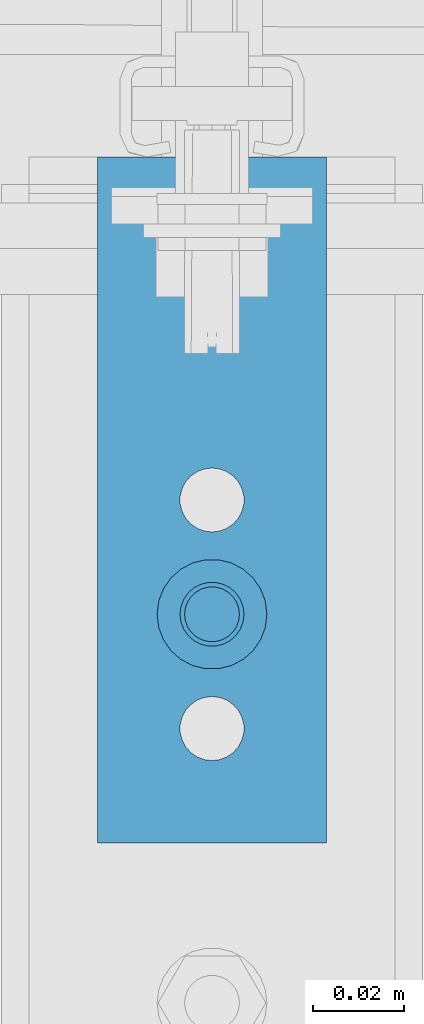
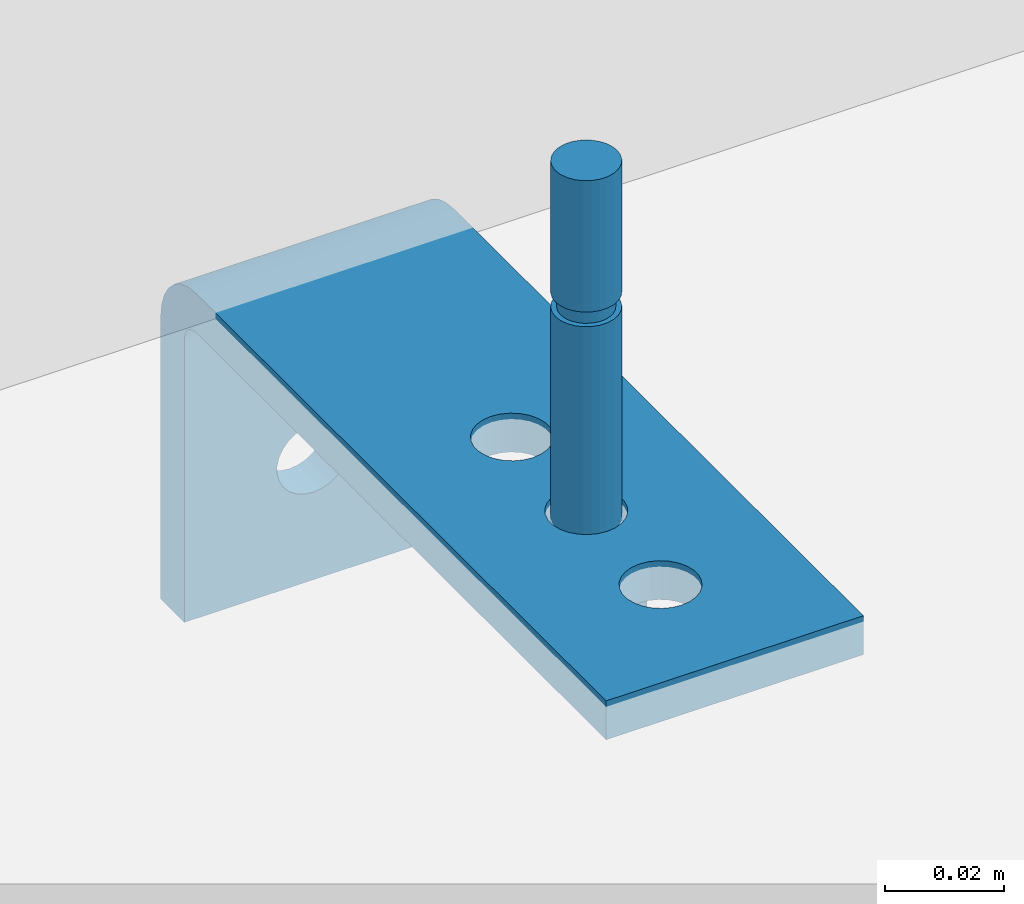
# One storey, part 5 of 17: 2 assemblies, 4 openings.
"""IFC2X3 building model written with IfcOpenShell, lengths in metres."""

import ifcopenshell
import ifcopenshell.guid

model = None  # the IFC model being written
_history = None  # IfcOwnerHistory: only IFC2X3 demands one
_inside = {}  # id of a spatial element -> (the spatial element, [elements in it])
_under = {}  # id of a project, library or spatial element -> (it, [spatial elements below it])
_declared = {}  # id of a project -> (the project, [libraries it declares])
_typed = {}  # id of a type object -> (the type object, [elements of that type])
_made_of = {}  # id of a material, layer set ... -> (it, [elements and type objects made of it])


def new_model(schema):
    """Start an empty IFC model of exactly this schema.

    Asked for "IFC4X3", IfcOpenShell would pick the latest addendum, in which some entities
    have other attributes; the version numbers below select the first issue.
    IFC2X3 requires an IfcOwnerHistory on every rooted entity: one is made here for all.
    """
    global model, _history
    if schema == "IFC4X3":
        model = ifcopenshell.file(schema_version=(4, 3, 0, 0))
    else:
        model = ifcopenshell.file(schema=schema)
    _inside.clear()
    _under.clear()
    _declared.clear()
    _typed.clear()
    _made_of.clear()
    _history = None
    if model.schema == "IFC2X3":
        org = make("IfcOrganization", Name="unknown")
        user = make(
            "IfcPersonAndOrganization",
            ThePerson=make("IfcPerson", FamilyName="unknown"),
            TheOrganization=org,
        )
        app = make(
            "IfcApplication",
            ApplicationDeveloper=org,
            Version="unknown",
            ApplicationFullName="unknown",
            ApplicationIdentifier="unknown",
        )
        _history = make(
            "IfcOwnerHistory",
            OwningUser=user,
            OwningApplication=app,
            ChangeAction="ADDED",
            CreationDate=0,
        )
    return model


def make(cls, **values):
    """One entity of the class cls with the attributes given. An attribute that is None is left unset."""
    return model.create_entity(
        cls, **{name: value for name, value in values.items() if value is not None}
    )


def entity(cls, *values):
    """Any entity or typed value of the class cls, its attributes in the order of the schema. None: left unset."""
    e = model.create_entity(cls)
    for i, value in enumerate(values):
        if value is not None:
            e[i] = value
    return e


def rooted(cls, **values):
    """An entity with a GlobalId (a new one), such as an element, a storey or a relation."""
    return make(cls, GlobalId=ifcopenshell.guid.new(), OwnerHistory=_history, **values)


def si_unit(unit_type, name, prefix=None):
    """IfcSIUnit, for example si_unit("LENGTHUNIT", "METRE", prefix="MILLI")."""
    return make("IfcSIUnit", UnitType=unit_type, Prefix=prefix, Name=name)


def converted_unit(unit_type, name, factor, base, dimensions=None, offset=None):
    """IfcConversionBasedUnit, such as the inch: factor (a typed value) times the base unit."""
    return make(
        "IfcConversionBasedUnit"
        if offset is None
        else "IfcConversionBasedUnitWithOffset",
        ConversionOffset=offset,
        Dimensions=None
        if dimensions is None
        else entity("IfcDimensionalExponents", *dimensions),
        UnitType=unit_type,
        Name=name,
        ConversionFactor=make(
            "IfcMeasureWithUnit", ValueComponent=factor, UnitComponent=base
        ),
    )


def derived_unit(unit_type, elements):
    """IfcDerivedUnit: a product of units, each with its exponent."""
    return make(
        "IfcDerivedUnit",
        Elements=[
            make("IfcDerivedUnitElement", Unit=unit, Exponent=power)
            for unit, power in elements
        ],
        UnitType=unit_type,
    )


def assignment(units):
    """IfcUnitAssignment: the units of a project."""
    return None if units is None else make("IfcUnitAssignment", Units=units)


def point(xyz):
    """IfcCartesianPoint."""
    return None if xyz is None else make("IfcCartesianPoint", Coordinates=xyz)


def direction(xyz):
    """IfcDirection."""
    return None if xyz is None else make("IfcDirection", DirectionRatios=xyz)


def frame(location, z_axis=None, x_axis=None):
    """IfcAxis2Placement3D, a coordinate frame: its origin and axes. An axis left out is left unset."""
    return make(
        "IfcAxis2Placement3D",
        Location=point(location),
        Axis=direction(z_axis),
        RefDirection=direction(x_axis),
    )


def frame_2d(location, x_axis=None):
    """IfcAxis2Placement2D, a coordinate frame in the plane: its origin and x axis."""
    return make(
        "IfcAxis2Placement2D", Location=point(location), RefDirection=direction(x_axis)
    )


def origin():
    """The frame at (0, 0, 0) with its axes left unset."""
    return frame((0.0, 0.0, 0.0))


def place(relative_to, where):
    """IfcLocalPlacement: puts the frame where relative to a parent placement (None: the world)."""
    return make(
        "IfcLocalPlacement", PlacementRelTo=relative_to, RelativePlacement=where
    )


def context(
    kind, dimensions, precision=None, world=None, true_north=None, identifier=None
):
    """IfcGeometricRepresentationContext, for example the 3D "Model" context."""
    return make(
        "IfcGeometricRepresentationContext",
        ContextIdentifier=identifier,
        ContextType=kind,
        CoordinateSpaceDimension=dimensions,
        Precision=precision,
        WorldCoordinateSystem=world,
        TrueNorth=true_north,
    )


def subcontext(parent, identifier, kind, view, scale=None):
    """IfcGeometricRepresentationSubContext, for example "Body" below "Model"."""
    return make(
        "IfcGeometricRepresentationSubContext",
        ContextIdentifier=identifier,
        ContextType=kind,
        ParentContext=parent,
        TargetScale=scale,
        TargetView=view,
    )


def project(units=None, contexts=None):
    """IfcProject with its units and contexts."""
    return rooted(
        "IfcProject",
        Name="project",
        RepresentationContexts=contexts,
        UnitsInContext=assignment(units),
    )


def spatial(cls, under=None, at=None, **own):
    """A site, building, storey or space (cls), placed at a placement, below another one or the project."""
    s = rooted(cls, ObjectPlacement=at, **own)
    if under is not None:
        _under.setdefault(under.id(), (under, []))[1].append(s)
    return s


def polyline(points):
    """IfcPolyline through the points."""
    return make("IfcPolyline", Points=[point(p) for p in points])


def circle_curve(where, radius):
    """IfcCircle in the frame where."""
    return make("IfcCircle", Position=where, Radius=radius)


def parameter(value):
    """IfcParameterValue: where a trimmed curve begins or ends, as a parameter of its basis curve."""
    return model.create_entity("IfcParameterValue", value)


def trimmed(basis, trim1, trim2, sense, master):
    """IfcTrimmedCurve: the piece of a basis curve between two trims."""
    return make(
        "IfcTrimmedCurve",
        BasisCurve=basis,
        Trim1=trim1,
        Trim2=trim2,
        SenseAgreement=sense,
        MasterRepresentation=master,
    )


def segment(curve, same_sense, transition):
    """IfcCompositeCurveSegment."""
    return make(
        "IfcCompositeCurveSegment",
        Transition=transition,
        SameSense=same_sense,
        ParentCurve=curve,
    )


def composite_curve(segments, self_intersect=None):
    """IfcCompositeCurve: segments joined end to end."""
    return make("IfcCompositeCurve", Segments=segments, SelfIntersect=self_intersect)


def profile(cls, at=None, kind="AREA", **sizes):
    """A parametric profile (cls). Its sizes go by their IFC names, for example OverallWidth=200.0."""
    return make(cls, ProfileType=kind, Position=at, **sizes)


def circle(**sizes):
    """IfcCircleProfileDef."""
    return profile("IfcCircleProfileDef", **sizes)


def hollow_circle(**sizes):
    """IfcCircleHollowProfileDef."""
    return profile("IfcCircleHollowProfileDef", **sizes)


def outline(outer, holes=None, kind="AREA"):
    """IfcArbitraryClosedProfileDef: a profile drawn as a closed curve; with holes, ...WithVoids."""
    if holes is None:
        return make("IfcArbitraryClosedProfileDef", ProfileType=kind, OuterCurve=outer)
    return make(
        "IfcArbitraryProfileDefWithVoids",
        ProfileType=kind,
        OuterCurve=outer,
        InnerCurves=holes,
    )


def extrude(swept, where, along, depth):
    """IfcExtrudedAreaSolid: the profile swept, set in the frame where, extruded along a direction by depth."""
    return make(
        "IfcExtrudedAreaSolid",
        SweptArea=swept,
        Position=where,
        ExtrudedDirection=direction(along),
        Depth=depth,
    )


def shape(context_of_items, identifier, shape_type, items):
    """IfcShapeRepresentation: the items that make up one representation, for example the "Body"."""
    return make(
        "IfcShapeRepresentation",
        ContextOfItems=context_of_items,
        RepresentationIdentifier=identifier,
        RepresentationType=shape_type,
        Items=items,
    )


def source(mapping_origin, context_of_items, identifier, shape_type, items):
    """IfcRepresentationMap: a shape defined once, which mapped items show again and again."""
    return make(
        "IfcRepresentationMap",
        MappingOrigin=mapping_origin,
        MappedRepresentation=shape(context_of_items, identifier, shape_type, items),
    )


def transform(
    local_origin,
    x_axis=None,
    y_axis=None,
    z_axis=None,
    scale=None,
    scale2=None,
    scale3=None,
    uniform=True,
):
    """IfcCartesianTransformationOperator3D, or its non-uniform kind. x_axis, y_axis, z_axis: its Axis1, 2, 3."""
    if uniform:
        return make(
            "IfcCartesianTransformationOperator3D",
            Axis1=direction(x_axis),
            Axis2=direction(y_axis),
            LocalOrigin=point(local_origin),
            Scale=scale,
            Axis3=direction(z_axis),
        )
    return make(
        "IfcCartesianTransformationOperator3DnonUniform",
        Axis1=direction(x_axis),
        Axis2=direction(y_axis),
        LocalOrigin=point(local_origin),
        Scale=scale,
        Axis3=direction(z_axis),
        Scale2=scale2,
        Scale3=scale3,
    )


def mapped(mapping_source, mapping_target):
    """IfcMappedItem: shows the shape of a source again, moved by a transform."""
    return make(
        "IfcMappedItem", MappingSource=mapping_source, MappingTarget=mapping_target
    )


def material(Name=None, Category=None):
    """IfcMaterial."""
    return make("IfcMaterial", Name=Name, Category=Category)


def made_of(thing, what):
    """Note that an element or type object is made of a material, layer set ...; save() writes the relation."""
    if what is not None:
        _made_of.setdefault(what.id(), (what, []))[1].append(thing)
    return thing


def type_object(cls, material=None, **own):
    """A type object (cls), such as IfcWallType, which elements share."""
    return made_of(rooted(cls, **own), material)


def type_shapes(of_type, sources):
    """Give a type object the sources (RepresentationMaps) that its elements show as mapped items."""
    of_type.RepresentationMaps = sources


def element(
    cls,
    number,
    at=None,
    inside=None,
    cuts=None,
    type_object=None,
    material=None,
    context=None,
    identifier="Body",
    shape_type=None,
    held_by="IfcProductDefinitionShape",
    body=None,
    shapes=None,
    **own,
):
    """One element of the class cls, such as IfcWall. Its Tag is "e" and its number.

    at: its placement. inside: the storey or other place that contains it. cuts: it is an
    opening in that element (IfcRelVoidsElement). A single representation is given by context,
    identifier, shape_type and body (its items); several are given by shapes. held_by: the class
    of the entity that holds the representations. save() writes the other relations.
    """
    e = rooted(cls, Tag="e%d" % number, ObjectPlacement=at, **own)
    if body is not None:
        shapes = [shape(context, identifier, shape_type, body)]
    if shapes is not None:
        e.Representation = make(held_by, Representations=shapes)
    if inside is not None:
        _inside.setdefault(inside.id(), (inside, []))[1].append(e)
    if cuts is not None:
        rooted(
            "IfcRelVoidsElement", RelatingBuildingElement=cuts, RelatedOpeningElement=e
        )
    if type_object is not None:
        _typed.setdefault(type_object.id(), (type_object, []))[1].append(e)
    return made_of(e, material)


def aggregate(whole, parts):
    """IfcRelAggregates: a whole, such as a stair, and the parts it consists of."""
    return rooted("IfcRelAggregates", RelatingObject=whole, RelatedObjects=parts)


def save(model, path):
    """Write the relations noted so far, then the file.

    IfcRelAggregates (storeys below a building ...), IfcRelContainedInSpatialStructure (elements
    in a storey), IfcRelDefinesByType, IfcRelAssociatesMaterial and IfcRelDeclares: one each for
    every whole, place, type object, material and project.
    """
    for whole, parts in _under.values():
        aggregate(whole, parts)
    for where, things in _inside.values():
        rooted(
            "IfcRelContainedInSpatialStructure",
            RelatedElements=things,
            RelatingStructure=where,
        )
    for kind, things in _typed.values():
        rooted("IfcRelDefinesByType", RelatedObjects=things, RelatingType=kind)
    for what, things in _made_of.values():
        rooted("IfcRelAssociatesMaterial", RelatedObjects=things, RelatingMaterial=what)
    for by, libraries in _declared.values():
        rooted("IfcRelDeclares", RelatingContext=by, RelatedDefinitions=libraries)
    model.write(path)


model = new_model("IFC2X3")

# Units and contexts
model_context = context("Model", 3, precision=1e-05, world=origin(), true_north=direction((6.123031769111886e-17, 1.0)))
plan_context = context("Plan", 3, precision=1e-05, world=origin(), true_north=direction((6.123031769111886e-17, 1.0)))
body_context = subcontext(model_context, "Body", "Model", "MODEL_VIEW")
ifc_project = project(units=[si_unit("LENGTHUNIT", "METRE"), si_unit("AREAUNIT", "SQUARE_METRE"), converted_unit("PLANEANGLEUNIT", "DEGREE", entity("IfcPlaneAngleMeasure", 0.017453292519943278), si_unit("PLANEANGLEUNIT", "RADIAN"), dimensions=[0, 0, 0, 0, 0, 0, 0]), si_unit("VOLUMEUNIT", "CUBIC_METRE"), derived_unit("THERMALTRANSMITTANCEUNIT", [(si_unit("MASSUNIT", "GRAM", prefix="KILO"), 1), (si_unit("THERMODYNAMICTEMPERATUREUNIT", "KELVIN"), -1), (si_unit("TIMEUNIT", "SECOND"), -3)]), derived_unit("USERDEFINED", [(si_unit("MASSUNIT", "GRAM", prefix="KILO"), 1), (si_unit("THERMODYNAMICTEMPERATUREUNIT", "KELVIN"), -1), (si_unit("TIMEUNIT", "SECOND"), -2)]), derived_unit("THERMALRESISTANCEUNIT", [(si_unit("MASSUNIT", "GRAM", prefix="KILO"), -1), (si_unit("TIMEUNIT", "SECOND"), 3), (si_unit("THERMODYNAMICTEMPERATUREUNIT", "KELVIN"), 1)]), si_unit("PRESSUREUNIT", "PASCAL"), derived_unit("MASSDENSITYUNIT", [(si_unit("MASSUNIT", "GRAM", prefix="KILO"), 1), (si_unit("LENGTHUNIT", "METRE"), -3)]), derived_unit("VAPORPERMEABILITYUNIT", [(si_unit("LENGTHUNIT", "METRE"), -1), (si_unit("TIMEUNIT", "SECOND"), 1)]), derived_unit("USERDEFINED", [(si_unit("MASSUNIT", "GRAM", prefix="KILO"), 1), (si_unit("TIMEUNIT", "SECOND"), -3), (si_unit("LENGTHUNIT", "METRE"), 3), (si_unit("ELECTRICCURRENTUNIT", "AMPERE"), -2)])], contexts=[model_context, plan_context])

# Site, building, storey
site_placement = place(None, origin())
site = spatial("IfcSite", under=ifc_project, at=site_placement, Name="Default", CompositionType="ELEMENT")
building_placement = place(site_placement, origin())
building = spatial("IfcBuilding", under=site, at=building_placement, CompositionType="ELEMENT")
storey_placement = place(building_placement, origin())
storey = spatial("IfcBuildingStorey", under=building, at=storey_placement, Name="L0", CompositionType="ELEMENT", Elevation=0.0)

# Assembly
ifc_material = material(Name="REC_Acero, S 275JR (Zincado)")
type_product_1 = type_object("IfcTypeProduct", Name="REC-AEM12-100:AEM12-100", material=ifc_material)
shared_shape_1 = source(origin(), body_context, "Body", "SweptSolid", [
    extrude(outline(polyline([(-0.005890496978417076, -0.010202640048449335), (0.005890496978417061, -0.010202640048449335), (0.01178099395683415, 0.0), (0.005890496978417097, 0.010202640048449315), (-0.0058904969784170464, 0.010202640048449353), (-0.011780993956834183, 0.0), (-0.005890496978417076, -0.010202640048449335)]), holes=[composite_curve([segment(trimmed(circle_curve(frame_2d((6.043164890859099e-09, 0.0), x_axis=(1.0, 0.0)), 0.005999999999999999), [parameter(3.053332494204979e-13)], [parameter(180.0)], True, "PARAMETER"), False, "CONTINUOUS"), segment(trimmed(circle_curve(frame_2d((6.043164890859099e-09, 0.0), x_axis=(1.0, 0.0)), 0.005999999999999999), [parameter(179.99999999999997)], [parameter(0.0)], True, "PARAMETER"), False, "CONTINUOUS")], self_intersect=False)]), frame((-6.043164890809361e-09, 0.0, 0.002399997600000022)), (0.0, 0.0, 1.0), 0.009600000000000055),
    extrude(hollow_circle(Radius=0.011999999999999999, WallThickness=0.004999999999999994, at=frame_2d((1.062573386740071e-19, -1.9386534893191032e-17), x_axis=(1.0, 0.0))), origin(), (0.0, 0.0, 1.0), 0.002399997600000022),
    extrude(circle(Radius=0.006, at=frame_2d((1.3218592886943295e-19, -9.69326744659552e-18), x_axis=(1.0, 0.0))), frame((0.0, 0.0, -0.05)), (0.0, 0.0, 1.0), 0.07),
    extrude(circle(Radius=0.006, at=frame_2d((1.3218592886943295e-19, -9.69326744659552e-18), x_axis=(1.0, 0.0))), frame((0.0, 0.0, -0.08)), (0.0, 0.0, 1.0), 0.027000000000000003),
    extrude(circle(Radius=0.005, at=frame_2d((1.3218592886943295e-19, -8.077722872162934e-18), x_axis=(1.0, 0.0))), frame((0.0, 0.0, -0.053)), (0.0, 0.0, 1.0), 0.002999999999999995),
])
type_shapes(type_product_1, [shared_shape_1])
assembly_1_placement = place(storey_placement, frame((7.407720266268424, 16.91453029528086, -0.20800000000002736), z_axis=(0.0, 0.0, -1.0), x_axis=(-1.0, 0.0, 0.0)))
element("IfcElementAssembly", 1, at=assembly_1_placement, inside=storey, type_object=type_product_1, material=ifc_material, Name="REC-AEM12-100:AEM12-100", ObjectType="REC-AEM12-100:AEM12-100", AssemblyPlace="NOTDEFINED", PredefinedType="NOTDEFINED", context=body_context, shape_type="MappedRepresentation", body=[
    mapped(shared_shape_1, transform((0.0, 0.0, 0.0), scale=1.0)),
])

# Assembly, openings
type_product_2 = type_object("IfcTypeProduct", Name="REC-PAA150708T14:PAA150708T14", material=ifc_material)
shared_shape_2 = source(origin(), body_context, "Body", "SweptSolid", [
    extrude(outline(composite_curve([segment(polyline([(-0.03449999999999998, -0.010499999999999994), (-0.03449999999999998, 0.04750000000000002)]), True, "CONTINUOUS"), segment(polyline([(-0.03449999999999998, 0.04750000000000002), (-0.04249999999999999, 0.04750000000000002)]), True, "CONTINUOUS"), segment(polyline([(-0.04249999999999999, 0.04750000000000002), (-0.042499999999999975, -0.01050000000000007)]), True, "CONTINUOUS"), segment(trimmed(circle_curve(frame_2d((-0.03049999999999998, -0.010499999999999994), x_axis=(1.0, 0.0)), 0.012), [parameter(180.00000000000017)], [parameter(269.99999999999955)], True, "PARAMETER"), True, "CONTINUOUS"), segment(polyline([(-0.03049999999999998, -0.022499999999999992), (0.10750000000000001, -0.022499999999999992)]), True, "CONTINUOUS"), segment(polyline([(0.10750000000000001, -0.022499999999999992), (0.10750000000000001, -0.01449999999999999)]), True, "CONTINUOUS"), segment(polyline([(0.10750000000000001, -0.01449999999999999), (-0.030500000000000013, -0.014499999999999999)]), True, "CONTINUOUS"), segment(trimmed(circle_curve(frame_2d((-0.03049999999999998, -0.010499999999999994), x_axis=(1.0, 0.0)), 0.004), [parameter(180.00000000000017)], [parameter(269.9999999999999)], True, "PARAMETER"), False, "CONTINUOUS")], self_intersect=False)), frame((-0.024999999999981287, 0.0225, 0.042499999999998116), z_axis=(-1.0, 0.0, 0.0), x_axis=(0.0, 0.0, 1.0)), (0.0, 0.0, -1.0), 0.04999999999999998),
])
type_shapes(type_product_2, [shared_shape_2])
assembly_2_placement = place(storey_placement, frame((7.407720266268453, 17.014530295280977, -0.20000000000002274), z_axis=(0.0, -1.0, 0.0), x_axis=(-1.0, 0.0, 0.0)))
assembly_2 = element("IfcElementAssembly", 2, at=assembly_2_placement, inside=storey, type_object=type_product_2, material=ifc_material, Name="REC-PAA150708T14:PAA150708T14", ObjectType="REC-PAA150708T14:PAA150708T14", AssemblyPlace="NOTDEFINED", PredefinedType="NOTDEFINED", context=body_context, shape_type="MappedRepresentation", body=[
    mapped(shared_shape_2, transform((0.0, 0.0, 0.0), scale=1.0)),
])
opening_1_placement = place(storey_placement, frame((7.407720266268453, 17.014530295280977, -0.20000000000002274)))
element("IfcOpeningElement", 3, at=opening_1_placement, cuts=assembly_2, Name="REC-PAA150708T14:PAA150708T14:1", ObjectType="Opening", context=body_context, shape_type="SweptSolid", body=[
    extrude(circle(Radius=0.007, at=frame_2d((6.283419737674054e-33, 3.537250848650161e-18), x_axis=(1.0, 0.0))), frame((0.0, -0.12499999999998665, 0.0), z_axis=(0.0, 0.0, -1.0), x_axis=(0.0, 1.0, 0.0)), (0.0, 0.0, 1.0), 0.007999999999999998),
])
opening_2_placement = place(storey_placement, frame((7.407720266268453, 17.014530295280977, -0.20000000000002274)))
element("IfcOpeningElement", 4, at=opening_2_placement, cuts=assembly_2, Name="REC-PAA150708T14:PAA150708T14:2", ObjectType="Opening", context=body_context, shape_type="SweptSolid", body=[
    extrude(circle(Radius=0.007, at=frame_2d((6.283419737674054e-33, 3.537250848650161e-18), x_axis=(1.0, 0.0))), frame((0.0, -0.09999999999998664, 0.0), z_axis=(0.0, 0.0, -1.0), x_axis=(0.0, 1.0, 0.0)), (0.0, 0.0, 1.0), 0.007999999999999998),
])
opening_3_placement = place(storey_placement, frame((7.407720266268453, 17.014530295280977, -0.20000000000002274)))
element("IfcOpeningElement", 5, at=opening_3_placement, cuts=assembly_2, Name="REC-PAA150708T14:PAA150708T14:3", ObjectType="Opening", context=body_context, shape_type="SweptSolid", body=[
    extrude(circle(Radius=0.007, at=frame_2d((8.4598994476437e-18, 3.537250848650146e-18), x_axis=(1.0, 0.0))), frame((0.0, -0.07499999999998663, 0.0), z_axis=(0.0, 0.0, -1.0), x_axis=(0.0, 1.0, 0.0)), (0.0, 0.0, 1.0), 0.007999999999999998),
])
opening_4_placement = place(storey_placement, frame((7.407720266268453, 17.014530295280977, -0.20000000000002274)))
element("IfcOpeningElement", 6, at=opening_4_placement, cuts=assembly_2, Name="REC-PAA150708T14:PAA150708T14:4", ObjectType="Opening", context=body_context, shape_type="SweptSolid", body=[
    extrude(circle(Radius=0.007, at=frame_2d((0.0, -1.752606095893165e-17), x_axis=(1.0, 0.0))), frame((0.0, -0.00799999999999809, -0.04500000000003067), z_axis=(0.0, 1.0, 0.0), x_axis=(0.0, 0.0, 1.0)), (0.0, 0.0, 1.0), 0.008000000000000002),
])

save(model, "model.ifc")
